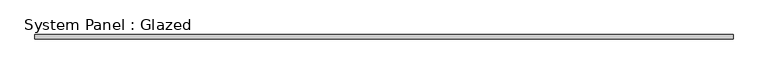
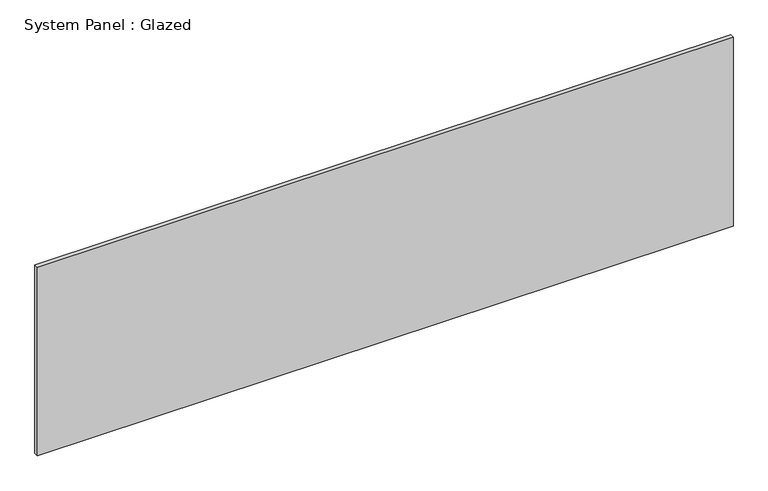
"""IFC4 building model written with IfcOpenShell, lengths in millimetres: plate geometry, System Panel : Glazed."""

from ifc_helpers import new_model, si_unit, origin, origin_with_axes, place, context, project, spatial, polyline, outline, extrude, source, transform, mapped, element, save


def system_panel_glazed_ecbc047f(model_context):
    return source(origin(), model_context, "Body", "SweptSolid", [
        extrude(outline(polyline([(1962.5, 24.5), (-1962.5, 24.5), (-1962.5, 49.5), (1962.5, 49.5), (1962.5, 24.5)])), origin_with_axes(), (0.0, 0.0, 1.0), 1125.0),
    ])


if __name__ == "__main__":
    model = new_model("IFC4")
    model_context = context("Model", 3, world=origin())
    ifc_project = project(units=[si_unit("LENGTHUNIT", "METRE", prefix="MILLI")], contexts=[model_context])
    site = spatial("IfcSite", under=ifc_project)
    building = spatial("IfcBuilding", under=site)
    placement = place(None, origin())
    system_panel_glazed_shape = system_panel_glazed_ecbc047f(model_context)
    element("IfcPlate", 1, ObjectType="System Panel : Glazed", at=placement, inside=building, context=model_context, shape_type="MappedRepresentation", body=[
        mapped(system_panel_glazed_shape, transform((0.0, 0.0, 0.0), x_axis=(1.0, 0.0, 0.0), y_axis=(0.0, 1.0, 0.0), z_axis=(0.0, 0.0, 1.0))),
    ])
    save(model, "model.ifc")
